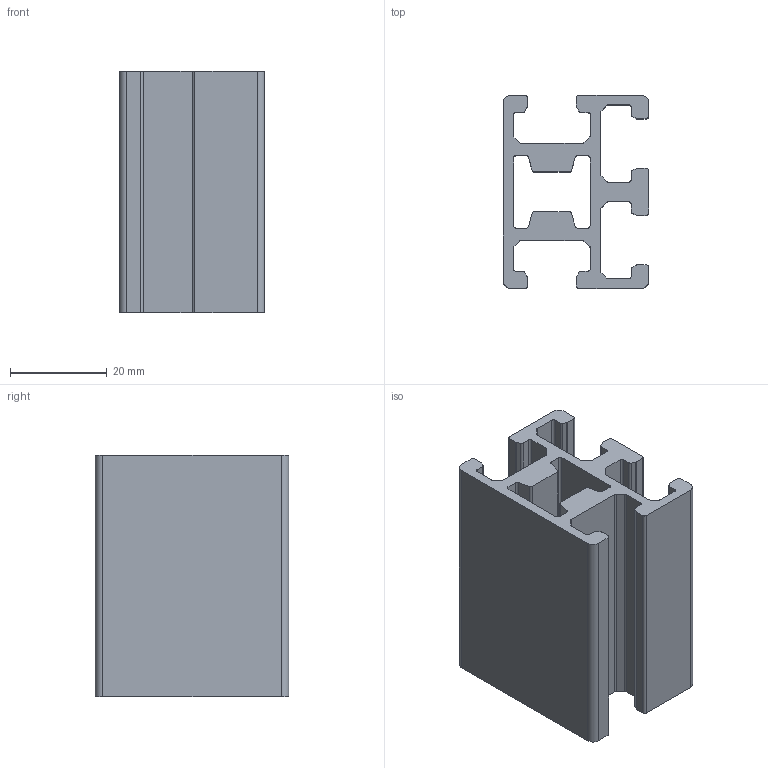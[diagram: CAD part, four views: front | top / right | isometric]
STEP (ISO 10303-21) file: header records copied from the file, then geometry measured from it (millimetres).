
FILE_DESCRIPTION(('STEP AP214'),'1');
FILE_NAME('F34E-.stp','2017-07-14T07:38:42',(' '),(' '),'Spatial InterOp 3D',' ',' ');
FILE_SCHEMA(('automotive_design'));
Length unit declared in the file: millimetre
Products named in the file (1): F34E-
Bounding box: 30 x 40 x 50 mm (x, y, z)
Volume: 23573.3 mm3; surface area: 16896.7 mm2
Topology: 1 solids, 1 shells, 130 faces, 384 edges, 256 vertices
Faces by surface type: plane 66, cylinder 64
Entity records: 5436 total; most frequent: DIRECTION 774, CARTESIAN_POINT 771, ORIENTED_EDGE 768, EDGE_CURVE 384, AXIS2_PLACEMENT_3D 259, VERTEX_POINT 256, LINE 256, VECTOR 256
